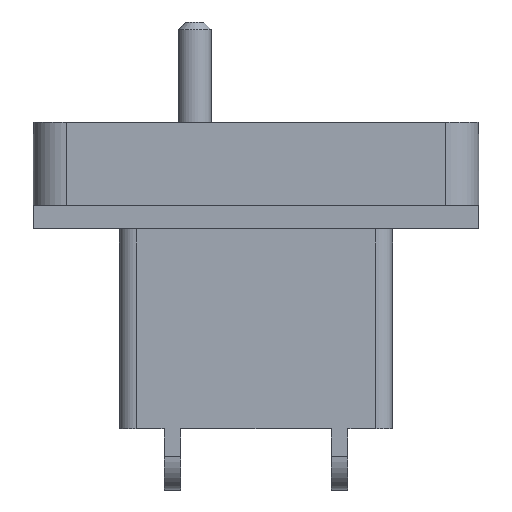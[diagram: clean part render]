
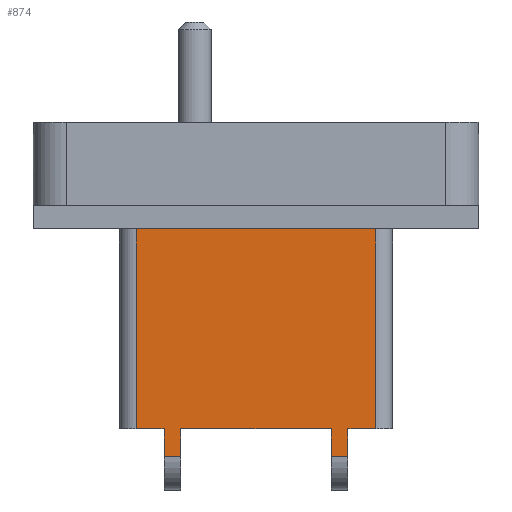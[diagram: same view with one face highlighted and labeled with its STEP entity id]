
A CAD part, left-side view. The second image highlights one B-rep face of the part: STEP entity #874.
In plain terms, the highlighted planar face has unit normal (-1, 0, 0).
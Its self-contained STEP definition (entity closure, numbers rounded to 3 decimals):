
#153=CARTESIAN_POINT('',(-42.675,10.75,2.));
#154=VERTEX_POINT('',#153);
#162=CARTESIAN_POINT('',(-42.675,-10.75,2.));
#163=VERTEX_POINT('',#162);
#164=CARTESIAN_POINT('',(-42.675,10.75,2.));
#165=DIRECTION('',(0.0,-1.0,0.0));
#166=VECTOR('',#165,21.5);
#167=LINE('',#164,#166);
#168=EDGE_CURVE('',#154,#163,#167,.T.);
#720=CARTESIAN_POINT('',(-42.675,10.75,-18.));
#721=VERTEX_POINT('',#720);
#729=CARTESIAN_POINT('',(-42.675,10.75,-18.));
#730=DIRECTION('',(0.0,0.0,1.0));
#731=VECTOR('',#730,20.0);
#732=LINE('',#729,#731);
#733=EDGE_CURVE('',#721,#154,#732,.T.);
#767=CARTESIAN_POINT('',(-42.675,-10.75,-18.));
#768=VERTEX_POINT('',#767);
#785=CARTESIAN_POINT('',(-42.675,-10.75,2.));
#786=DIRECTION('',(0.0,0.0,-1.0));
#787=VECTOR('',#786,20.0);
#788=LINE('',#785,#787);
#789=EDGE_CURVE('',#163,#768,#788,.T.);
#794=CARTESIAN_POINT('',(-42.675,12.25,2.));
#795=DIRECTION('',(-1.0,0.0,0.0));
#796=DIRECTION('',(0.0,0.0,1.0));
#797=AXIS2_PLACEMENT_3D('',#794,#795,#796);
#798=PLANE('',#797);
#799=ORIENTED_EDGE('',*,*,#733,.F.);
#800=CARTESIAN_POINT('',(-42.675,8.25,-18.));
#801=VERTEX_POINT('',#800);
#802=CARTESIAN_POINT('',(-42.675,10.75,-18.));
#803=DIRECTION('',(0.0,-1.0,0.0));
#804=VECTOR('',#803,2.5);
#805=LINE('',#802,#804);
#806=EDGE_CURVE('',#721,#801,#805,.T.);
#807=ORIENTED_EDGE('',*,*,#806,.T.);
#808=CARTESIAN_POINT('',(-42.675,8.25,-20.5));
#809=VERTEX_POINT('',#808);
#810=CARTESIAN_POINT('',(-42.675,8.25,-18.));
#811=DIRECTION('',(0.0,0.0,-1.0));
#812=VECTOR('',#811,2.5);
#813=LINE('',#810,#812);
#814=EDGE_CURVE('',#801,#809,#813,.T.);
#815=ORIENTED_EDGE('',*,*,#814,.T.);
#816=CARTESIAN_POINT('',(-42.675,6.75,-20.5));
#817=VERTEX_POINT('',#816);
#818=CARTESIAN_POINT('',(-42.675,6.75,-20.5));
#819=DIRECTION('',(0.0,1.0,0.0));
#820=VECTOR('',#819,1.5);
#821=LINE('',#818,#820);
#822=EDGE_CURVE('',#817,#809,#821,.T.);
#823=ORIENTED_EDGE('',*,*,#822,.F.);
#824=CARTESIAN_POINT('',(-42.675,6.75,-18.));
#825=VERTEX_POINT('',#824);
#826=CARTESIAN_POINT('',(-42.675,6.75,-18.));
#827=DIRECTION('',(0.0,0.0,-1.0));
#828=VECTOR('',#827,2.5);
#829=LINE('',#826,#828);
#830=EDGE_CURVE('',#825,#817,#829,.T.);
#831=ORIENTED_EDGE('',*,*,#830,.F.);
#832=CARTESIAN_POINT('',(-42.675,-6.75,-18.));
#833=VERTEX_POINT('',#832);
#834=CARTESIAN_POINT('',(-42.675,6.75,-18.));
#835=DIRECTION('',(0.0,-1.0,0.0));
#836=VECTOR('',#835,13.5);
#837=LINE('',#834,#836);
#838=EDGE_CURVE('',#825,#833,#837,.T.);
#839=ORIENTED_EDGE('',*,*,#838,.T.);
#840=CARTESIAN_POINT('',(-42.675,-6.75,-20.5));
#841=VERTEX_POINT('',#840);
#842=CARTESIAN_POINT('',(-42.675,-6.75,-18.));
#843=DIRECTION('',(0.0,0.0,-1.0));
#844=VECTOR('',#843,2.5);
#845=LINE('',#842,#844);
#846=EDGE_CURVE('',#833,#841,#845,.T.);
#847=ORIENTED_EDGE('',*,*,#846,.T.);
#848=CARTESIAN_POINT('',(-42.675,-8.25,-20.5));
#849=VERTEX_POINT('',#848);
#850=CARTESIAN_POINT('',(-42.675,-8.25,-20.5));
#851=DIRECTION('',(0.0,1.0,0.0));
#852=VECTOR('',#851,1.5);
#853=LINE('',#850,#852);
#854=EDGE_CURVE('',#849,#841,#853,.T.);
#855=ORIENTED_EDGE('',*,*,#854,.F.);
#856=CARTESIAN_POINT('',(-42.675,-8.25,-18.));
#857=VERTEX_POINT('',#856);
#858=CARTESIAN_POINT('',(-42.675,-8.25,-18.));
#859=DIRECTION('',(0.0,0.0,-1.0));
#860=VECTOR('',#859,2.5);
#861=LINE('',#858,#860);
#862=EDGE_CURVE('',#857,#849,#861,.T.);
#863=ORIENTED_EDGE('',*,*,#862,.F.);
#864=CARTESIAN_POINT('',(-42.675,-8.25,-18.));
#865=DIRECTION('',(0.0,-1.0,0.0));
#866=VECTOR('',#865,2.5);
#867=LINE('',#864,#866);
#868=EDGE_CURVE('',#857,#768,#867,.T.);
#869=ORIENTED_EDGE('',*,*,#868,.T.);
#870=ORIENTED_EDGE('',*,*,#789,.F.);
#871=ORIENTED_EDGE('',*,*,#168,.F.);
#872=EDGE_LOOP('',(#799,#807,#815,#823,#831,#839,#847,#855,#863,#869,#870,#871));
#873=FACE_OUTER_BOUND('',#872,.T.);
#874=ADVANCED_FACE('',(#873),#798,.T.);
